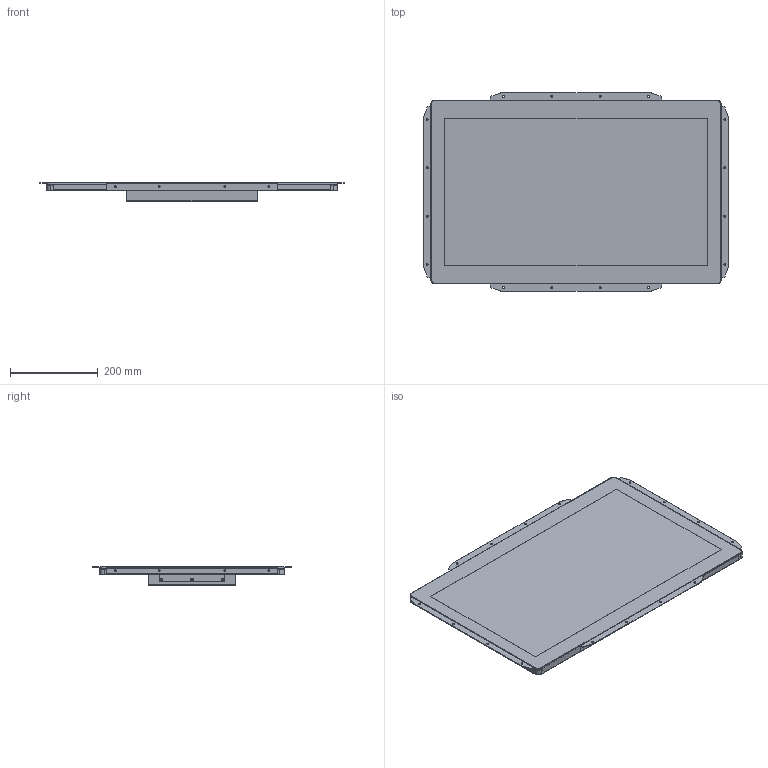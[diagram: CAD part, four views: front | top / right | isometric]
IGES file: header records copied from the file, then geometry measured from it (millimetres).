
Global section: file name: FIE270FM-P-Bracket; native system: AutoCAD 2019 – 繁體中文 (Traditional Chinese),62HAutode; preprocessor: sk Translation Framework DWG producer (atf_dwg_producer); organization: unknown; date: 20210621.153221; units: millimetre
Bounding box: 692.5 x 450.5 x 41 mm (x, y, z)
Volume: 2948932.5 mm3; surface area: 2099194.1 mm2
Topology: 15 solids, 15 shells, 1222 faces, 3217 edges, 2188 vertices
Faces by surface type: bspline 1222
